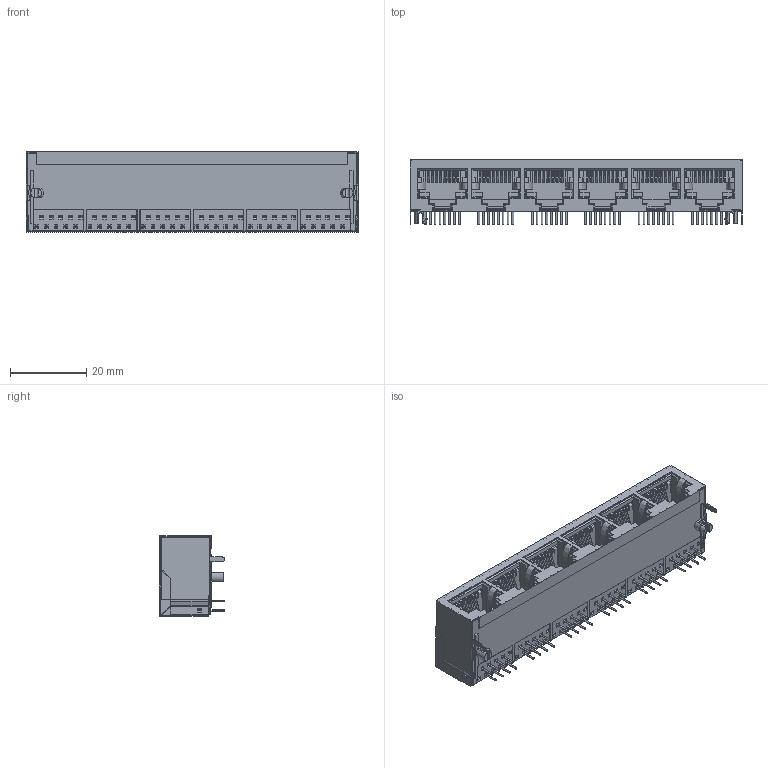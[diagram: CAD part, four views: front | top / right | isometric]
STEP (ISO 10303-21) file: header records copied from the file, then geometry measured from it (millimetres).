
FILE_DESCRIPTION((''),'2;1');
FILE_NAME('5921-16GW-027_ASM_1_ASM_1_ASM_1_ASM','2020-07-23T10:46:47',('Administrator'),(''),'CREO PARAMETRIC BY PTC INC, 2018400','CREO PARAMETRIC BY PTC INC, 2018400','');
FILE_SCHEMA(('CONFIG_CONTROL_DESIGN'));
Length unit declared in the file: millimetre
Products named in the file (7): 5921-16GW-027_1_1_1; CAXING_1_1_1_1_1_1_1_1_1_1_1; ZHEN-Y-1_1_1_1_1_1_1_1_1_1_1_1; XIAN-Y-006_1_1_1_1_1_1_1_1_1_1_; CSX_ASM_1_ASM_1_ASM_1_ASM_1_ASM_ASM; 5921-16GW-T_1_1; 5921-16GW-027_ASM_1_ASM_1_ASM_1_ASM
Assembly tree (25 placements, depth 3):
  5921-16GW-027_ASM_1_ASM_1_ASM_1_ASM
    5921-16GW-027_1_1_1
    CSX_ASM_1_ASM_1_ASM_1_ASM_1_ASM_ASM  x6
      CAXING_1_1_1_1_1_1_1_1_1_1_1
      ZHEN-Y-1_1_1_1_1_1_1_1_1_1_1_1
      XIAN-Y-006_1_1_1_1_1_1_1_1_1_1_
    5921-16GW-T_1_1
Bounding box: 86.84 x 17.07 x 21.15 mm (x, y, z)
Volume: 14173 mm3; surface area: 32788.1 mm2
Topology: 104 solids, 105 shells, 3458 faces, 9206 edges, 5842 vertices
Faces by surface type: plane 2305, cylinder 805, torus 192, cone 122, extrusion 28, sphere 6
Entity records: 40784 total; most frequent: CARTESIAN_POINT 8731, ORIENTED_EDGE 7028, DIRECTION 6083, EDGE_CURVE 3514, VECTOR 3085, LINE 3057, VERTEX_POINT 2280, AXIS2_PLACEMENT_3D 1499
